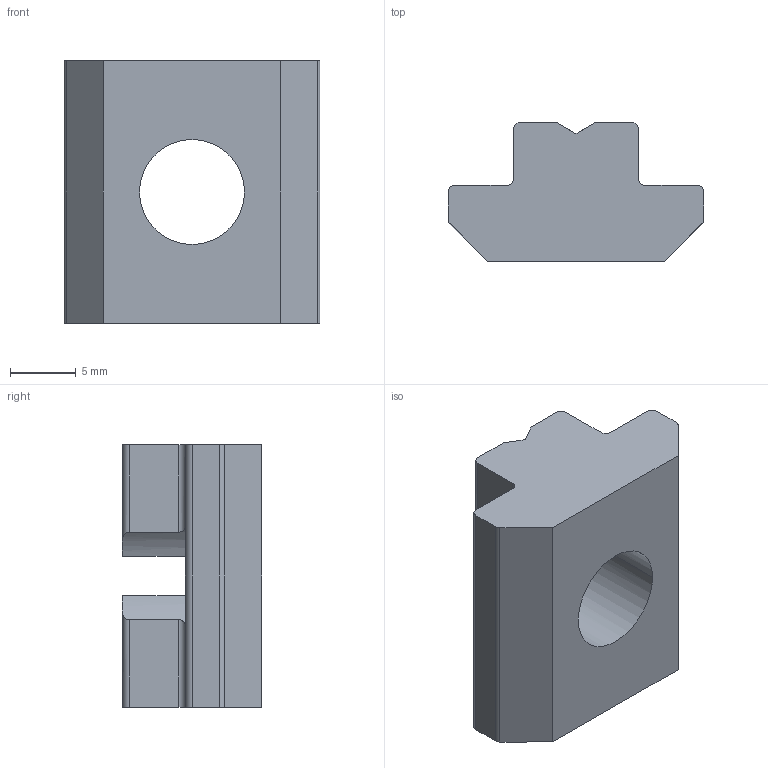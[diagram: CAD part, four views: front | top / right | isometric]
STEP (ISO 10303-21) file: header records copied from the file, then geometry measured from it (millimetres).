
FILE_DESCRIPTION (( 'STEP AP203' ), '1' );
FILE_NAME ('0965310.STEP', '2018-10-17T07:52:22', ( '' ), ( '' ), 'SwSTEP 2.0', 'SolidWorks 2017', '' );
FILE_SCHEMA (( 'CONFIG_CONTROL_DESIGN' ));
Length unit declared in the file: millimetre
Products named in the file (1): 0965310
Bounding box: 19.5 x 10.6 x 20 mm (x, y, z)
Volume: 2397.3 mm3; surface area: 1525.5 mm2
Topology: 1 solids, 1 shells, 39 faces, 114 edges, 76 vertices
Faces by surface type: plane 21, cylinder 18
Entity records: 1427 total; most frequent: CARTESIAN_POINT 302, ORIENTED_EDGE 228, DIRECTION 216, EDGE_CURVE 114, VERTEX_POINT 76, AXIS2_PLACEMENT_3D 74, LINE 68, VECTOR 68
